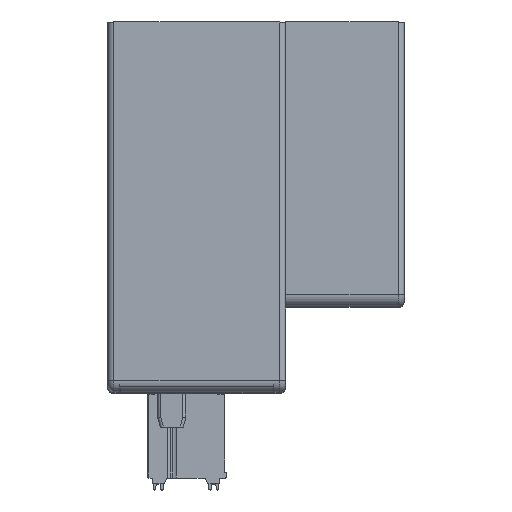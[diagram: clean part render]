
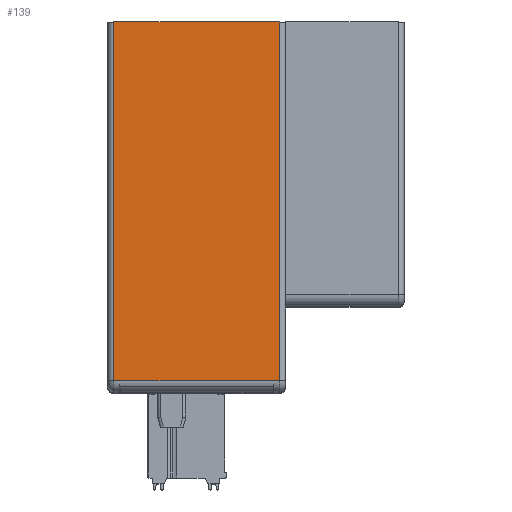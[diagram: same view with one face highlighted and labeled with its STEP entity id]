
A CAD part, top view. The second image highlights one B-rep face of the part: STEP entity #139.
In plain terms, the highlighted planar face has unit normal (0, 0, 1).
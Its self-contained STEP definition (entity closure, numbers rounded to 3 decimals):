
#139=ADVANCED_FACE('',(#1697),#1696,.F.);
#1696=PLANE('',#7799);
#1697=FACE_OUTER_BOUND('',#7800,.T.);
#7796=CARTESIAN_POINT('',(31.8,-72.15,62.2));
#7797=DIRECTION('',(0.,0.,-1.));
#7798=DIRECTION('',(-1.,0.,0.));
#7799=AXIS2_PLACEMENT_3D('',#7796,#7797,#7798);
#7800=EDGE_LOOP('',(#11779,#11780,#11781,#11782));
#11779=ORIENTED_EDGE('',*,*,#14832,.T.);
#11780=ORIENTED_EDGE('',*,*,#15022,.F.);
#11781=ORIENTED_EDGE('',*,*,#14863,.T.);
#11782=ORIENTED_EDGE('',*,*,#14721,.T.);
#14721=EDGE_CURVE('',#16647,#16640,#16648,.T.);
#14832=EDGE_CURVE('',#16640,#17403,#17410,.T.);
#14863=EDGE_CURVE('',#17605,#16647,#17618,.T.);
#15022=EDGE_CURVE('',#17605,#17403,#18674,.T.);
#16640=VERTEX_POINT('',#28015);
#16647=VERTEX_POINT('',#28020);
#16648=LINE('',#28021,#28022);
#17403=VERTEX_POINT('',#28470);
#17410=LINE('',#28475,#28476);
#17605=VERTEX_POINT('',#28599);
#17618=LINE('',#28608,#28609);
#18674=LINE('',#29242,#29243);
#28015=CARTESIAN_POINT('',(1.,-5.6,62.2));
#28020=CARTESIAN_POINT('',(29.,-5.6,62.2));
#28021=CARTESIAN_POINT('',(29.,-5.6,62.2));
#28022=VECTOR('',#28023,28.);
#28023=DIRECTION('',(-1.,0.,0.));
#28470=CARTESIAN_POINT('',(1.,-66.1,62.2));
#28475=CARTESIAN_POINT('',(1.,-5.6,62.2));
#28476=VECTOR('',#28477,60.5);
#28477=DIRECTION('',(0.,-1.,0.));
#28599=CARTESIAN_POINT('',(29.,-66.1,62.2));
#28608=CARTESIAN_POINT('',(29.,-66.1,62.2));
#28609=VECTOR('',#28610,60.5);
#28610=DIRECTION('',(0.,1.,0.));
#29242=CARTESIAN_POINT('',(29.,-66.1,62.2));
#29243=VECTOR('',#29244,28.);
#29244=DIRECTION('',(-1.,0.,0.));
